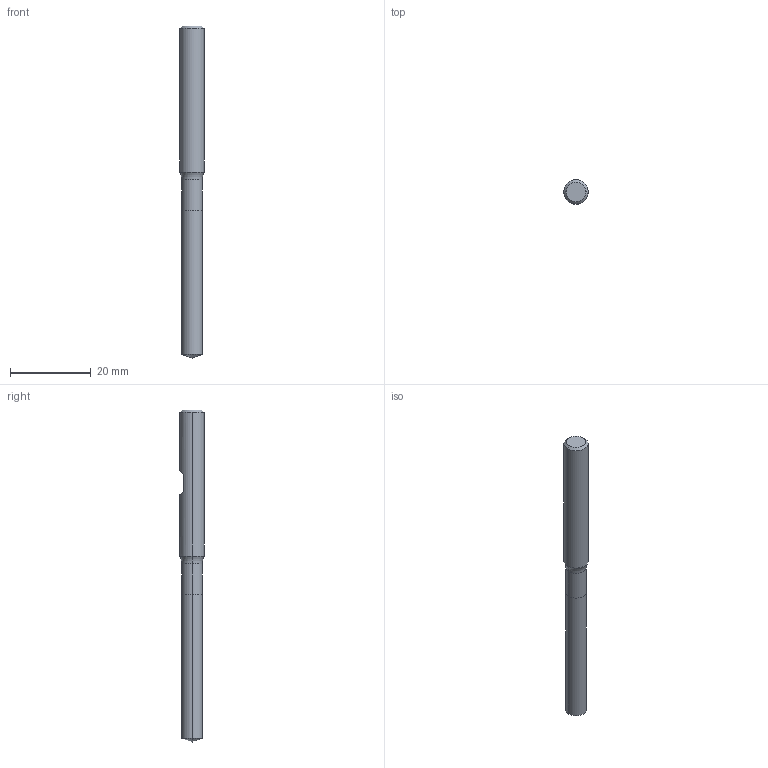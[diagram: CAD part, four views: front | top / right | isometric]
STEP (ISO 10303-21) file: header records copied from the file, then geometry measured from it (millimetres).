
FILE_DESCRIPTION (( 'STEP AP214' ), '1' );
FILE_NAME ('711.501.10_3D-model.step', '2022-02-22T18:33:39', ( '' ), ( '' ), 'SwSTEP 2.0', 'SolidWorks 2020', '' );
FILE_SCHEMA (( 'AUTOMOTIVE_DESIGN' ));
Length unit declared in the file: millimetre
Products named in the file (3): NOCUT-3D^Baugr75; 711.501.10_3D-model; CUT-3D^Baugr75
Assembly tree (2 placements, depth 2):
  711.501.10_3D-model
    CUT-3D^Baugr75
    NOCUT-3D^Baugr75
Bounding box: 6 x 6 x 82 mm (x, y, z)
Volume: 1902.2 mm3; surface area: 1473.3 mm2
Topology: 2 solids, 2 shells, 18 faces, 34 edges, 19 vertices
Faces by surface type: cylinder 6, plane 6, cone 4, torus 2
Entity records: 558 total; most frequent: DIRECTION 98, CARTESIAN_POINT 83, ORIENTED_EDGE 64, AXIS2_PLACEMENT_3D 42, EDGE_CURVE 32, VERTEX_POINT 19, EDGE_LOOP 19, ADVANCED_FACE 18
